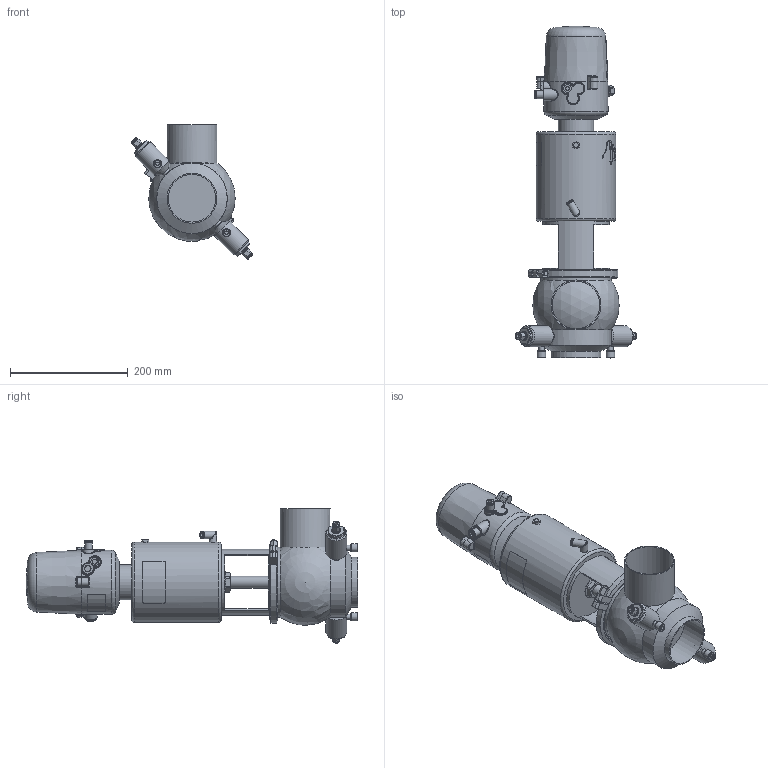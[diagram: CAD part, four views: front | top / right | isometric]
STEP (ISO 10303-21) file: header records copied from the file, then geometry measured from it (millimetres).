
FILE_DESCRIPTION (( 'STEP AP214' ), '1' );
FILE_NAME ('INNOVA D L W DIN 080 T3 AS NC & C-TOP S_10.246.16.0003.STEP', '2024-08-08T09:42:20', ( '' ), ( '' ), 'SwSTEP 2.0', 'SolidWorks 2023', '' );
FILE_SCHEMA (( 'AUTOMOTIVE_DESIGN' ));
Length unit declared in the file: millimetre
Products named in the file (7): INNOVA D L W DIN 080 T3 AS NC & C-TOP S_10.246.16.0003; 10.240.15.0017_Estàndard; 10.240.15.0010_DN 080; 10.246.15.0001_DIN 080; 10.240.15.0001_DN 080; 10.240.15.0014_T3 AS P0; 10.426.15.0001_C-TOP S - 1 EV
Assembly tree (6 placements, depth 2):
  INNOVA D L W DIN 080 T3 AS NC & C-TOP S_10.246.16.0003
    10.246.15.0001_DIN 080
    10.240.15.0010_DN 080
    10.240.15.0014_T3 AS P0
    10.240.15.0017_Estàndard
    10.426.15.0001_C-TOP S - 1 EV
    10.240.15.0001_DN 080
Bounding box: 207.32 x 565 x 228.66 mm (x, y, z)
Volume: 5701166.1 mm3; surface area: 430554.2 mm2
Topology: 6 solids, 6 shells, 1195 faces, 2850 edges, 1891 vertices
Faces by surface type: plane 441, cylinder 350, cone 202, bspline 160, torus 36, sphere 6
Full cylindrical faces by diameter (mm): 0.371 x17, 0.512 x16, 0.658 x16, 0.795 x16, 0.94 x15, 1.098 x15, 1.241 x13, 1.382 x13, 1.523 x11, 1.669 x10, 2.201 x1, 4 x2, 5.5 x2, 6 x6, 6.15 x1, 8 x4, 8.5 x1, 9 x2, 10 x3, 10.5 x1, 11 x2, 12 x4, 12.5 x3, 13 x2, 13.5 x2, 14 x4, 15 x2, 16 x1, 17 x3, 20 x3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
Entity records: 60354 total; most frequent: CARTESIAN_POINT 28487, ORIENTED_EDGE 4818, DIRECTION 3999, EDGE_CURVE 2409, VERTEX_POINT 1710, EDGE_LOOP 1689, AXIS2_PLACEMENT_3D 1617, FACE_OUTER_BOUND 1425
